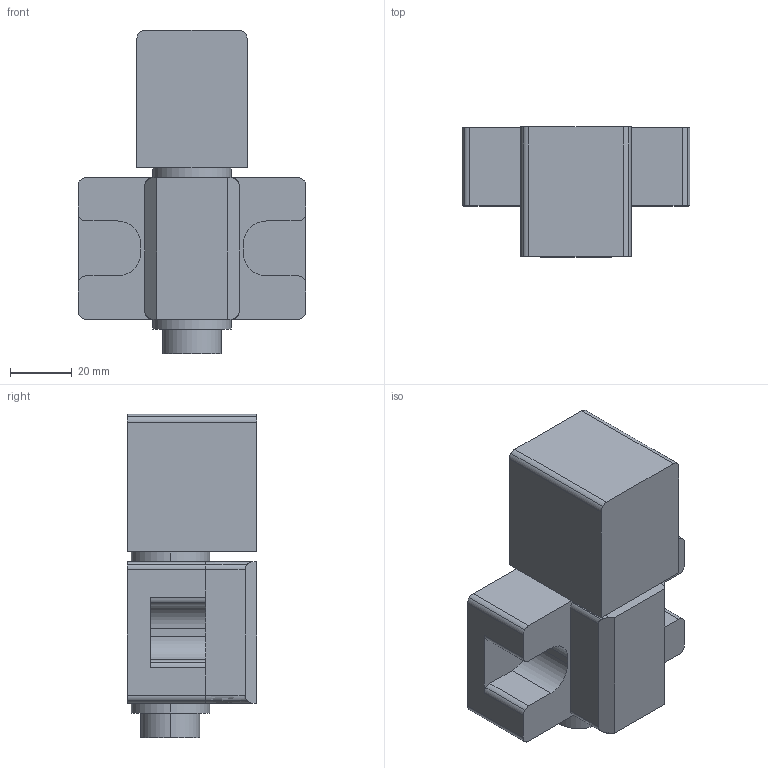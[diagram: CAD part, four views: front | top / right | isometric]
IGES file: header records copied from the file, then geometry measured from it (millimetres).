
Start section: 3D InterOp IGES (Version 21 0 3), Spatial Corp. Copyright (c) 1999-2007.
Global section: file name: export0.igs; native system: Spatial Corp.; preprocessor: 3D InterOp ACIS/IGES; author: Noname; organization: Noname; date: 20140203.200530; units: centimetre
Bounding box: 73.66 x 41.91 x 104.46 mm (x, y, z)
Surface area: 28910.4 mm2 (no closed solid volume)
Topology: 0 solids, 0 shells, 97 faces, 492 edges, 492 vertices
Faces by surface type: revolution 54, extrusion 43
